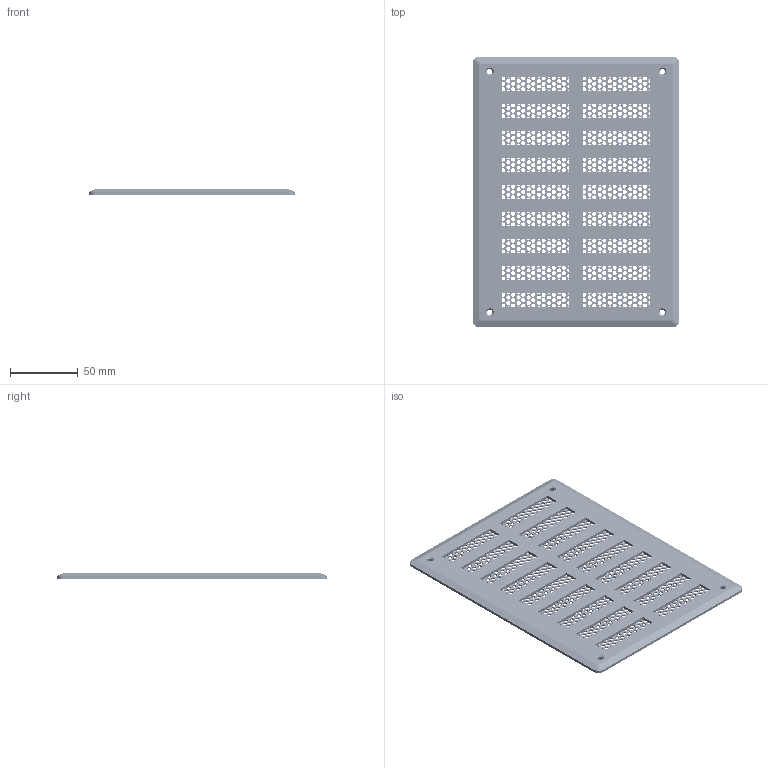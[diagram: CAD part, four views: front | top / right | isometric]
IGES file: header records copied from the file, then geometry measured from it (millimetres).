
Global section: file name: DR_GR-AL-150-200; native system: Autodesk Inventor 2015; preprocessor: unknown; author: user; date: 20180710.112402; units: millimetre
Bounding box: 153 x 200 x 4 mm (x, y, z)
Volume: 55642.5 mm3; surface area: 86972.3 mm2
Topology: 2 solids, 2 shells, 1670 faces, 4934 edges, 3228 vertices
Faces by surface type: bspline 1670
